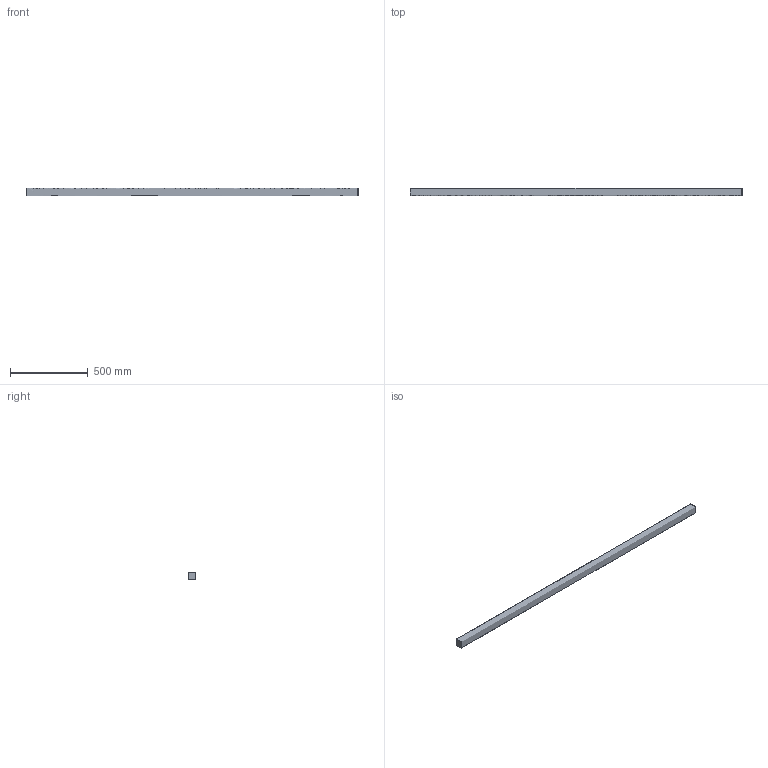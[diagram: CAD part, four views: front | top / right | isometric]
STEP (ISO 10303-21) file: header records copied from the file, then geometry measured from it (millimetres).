
FILE_DESCRIPTION(/* description */ (''),/* implementation_level */ '2;1');
FILE_NAME(/* name */ 'SEM.000245',/* time_stamp */ '2024-01-16T18:33:30+01:00',/* author */ (''),/* organization */ (''),/* preprocessor_version */ 'ST-DEVELOPER v16.5',/* originating_system */ 'Rhino 7.35',/* authorisation */ '');
FILE_SCHEMA (('CONFIG_CONTROL_DESIGN'));
Length unit declared in the file: millimetre
Products named in the file (1): Document
Bounding box: 2130 x 45 x 46.8 mm (x, y, z)
Surface area: 394653 mm2 (no closed solid volume)
Topology: 0 solids, 3 shells, 36 faces, 83 edges, 49 vertices
Faces by surface type: cylinder 16, bspline 10, plane 10
Entity records: 1394 total; most frequent: CARTESIAN_POINT 784, ORIENTED_EDGE 141, EDGE_CURVE 83, VERTEX_POINT 49, B_SPLINE_CURVE_WITH_KNOTS 45, EDGE_LOOP 41, ADVANCED_FACE 36, FACE_OUTER_BOUND 36
